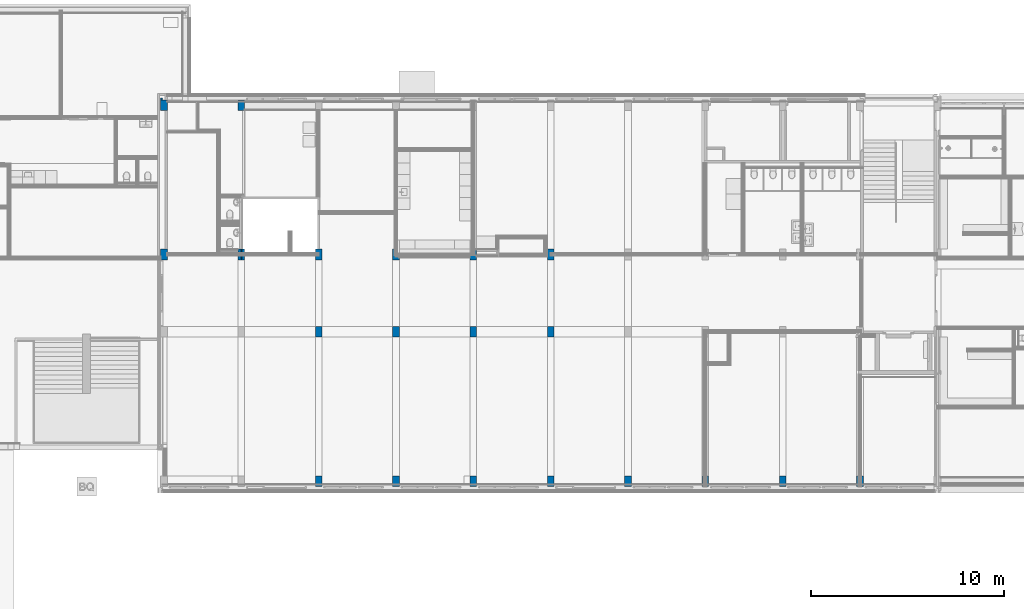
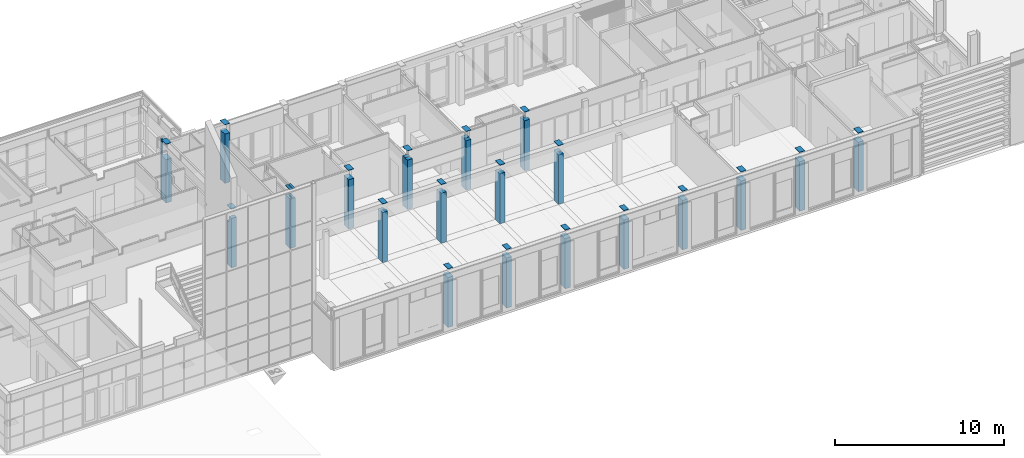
# One storey, part 4 of 109: 21 columns.
"""IFC2X3 building model written with IfcOpenShell, lengths in millimetres."""

from ifc_helpers import new_model, entity, si_unit, converted_unit, derived_unit, money_unit, direction, frame, origin_with_axes, place, context, subcontext, project, spatial, faceted_brep, material, type_object, element, save


model = new_model("IFC2X3")

# Units and contexts
model_context = context("Model", 3, precision=0.01, world=origin_with_axes(), true_north=direction((0.0, 1.0)))
body_context = subcontext(model_context, "Body", "Model", "MODEL_VIEW")
ifc_project = project(units=[si_unit("LENGTHUNIT", "METRE", prefix="MILLI"), si_unit("AREAUNIT", "SQUARE_METRE"), si_unit("VOLUMEUNIT", "CUBIC_METRE"), converted_unit("PLANEANGLEUNIT", "DEGREE", entity("IfcPlaneAngleMeasure", 0.0174532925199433), si_unit("PLANEANGLEUNIT", "RADIAN"), dimensions=[0, 0, 0, 0, 0, 0, 0]), money_unit("EUR"), converted_unit("TIMEUNIT", "Year", entity("IfcTimeMeasure", 31557600.0), si_unit("TIMEUNIT", "SECOND"), dimensions=[0, 0, 1, 0, 0, 0, 0]), si_unit("MASSUNIT", "GRAM", prefix="KILO"), si_unit("THERMODYNAMICTEMPERATUREUNIT", "DEGREE_CELSIUS"), si_unit("LUMINOUSINTENSITYUNIT", "LUMEN"), si_unit("ENERGYUNIT", "JOULE", prefix="MEGA"), derived_unit("THERMALCONDUCTANCEUNIT", [(si_unit("POWERUNIT", "WATT"), 1), (si_unit("LENGTHUNIT", "METRE"), -1), (si_unit("THERMODYNAMICTEMPERATUREUNIT", "KELVIN"), -1)]), derived_unit("SPECIFICHEATCAPACITYUNIT", [(si_unit("ENERGYUNIT", "JOULE"), 1), (si_unit("MASSUNIT", "GRAM", prefix="KILO"), -1), (si_unit("THERMODYNAMICTEMPERATUREUNIT", "KELVIN"), -1)]), derived_unit("MASSDENSITYUNIT", [(si_unit("MASSUNIT", "GRAM", prefix="KILO"), 1), (si_unit("VOLUMEUNIT", "CUBIC_METRE"), -1)])], contexts=[model_context])

# Site, building, storey
site_placement = place(None, origin_with_axes())
site = spatial("IfcSite", under=ifc_project, at=site_placement, Name="<site naam>", CompositionType="ELEMENT")
building_placement = place(site_placement, origin_with_axes())
building = spatial("IfcBuilding", under=site, at=building_placement, Name="<Naam gebouw>", CompositionType="ELEMENT")
storey_placement = place(building_placement, origin_with_axes())
storey = spatial("IfcBuildingStorey", under=building, at=storey_placement, Name="00 Begane grond", CompositionType="ELEMENT", Elevation=0.0)

# Columns
ifc_material = material(Name="betonblok C")
column_type_1 = type_object("IfcColumnType", Name="betonblok C 350 x 550", PredefinedType="COLUMN")
column_1_placement = place(storey_placement, frame((36000.00000000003, 275.0000000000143, 0.0), z_axis=(0.0, 0.0, 1.0), x_axis=(1.0, 0.0, 0.0)))
element("IfcColumn", 1, at=column_1_placement, inside=storey, type_object=column_type_1, material=ifc_material, Name="28_Kolom_betonblok", ObjectType="COLUMN", context=body_context, shape_type="Brep", body=[
    faceted_brep([(-174.9999999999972, 275.0000000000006, 0.0), (-175.0000000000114, 275.0000000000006, 3570.0), (174.9999999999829, 275.0000000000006, 3570.0), (174.9999999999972, 275.0000000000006, 0.0), (-174.9999999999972, -275.0000000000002, 0.0), (-175.0000000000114, -275.0000000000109, 3570.0), (174.9999999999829, -275.0000000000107, 3570.0), (174.9999999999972, -275.0000000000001, 0.0)], [[[0, 1, 2, 3]], [[4, 5, 1, 0]], [[5, 6, 2, 1]], [[3, 2, 6, 7]], [[0, 3, 7, 4]], [[7, 6, 5, 4]]]),
    faceted_brep([(174.9999999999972, -275.0000000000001, 4250.0), (174.9999999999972, -275.0000000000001, 4220.0), (174.9999999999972, 275.0000000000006, 4220.0), (174.9999999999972, 275.0000000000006, 4250.0), (-174.9999999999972, -275.0000000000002, 4250.0), (-174.9999999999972, -275.0000000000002, 4220.0), (-174.9999999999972, 275.0000000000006, 4220.0), (-174.9999999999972, 275.0000000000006, 4250.0)], [[[0, 1, 2, 3]], [[4, 5, 1, 0]], [[5, 6, 2, 1]], [[3, 2, 6, 7]], [[3, 7, 4, 0]], [[7, 6, 5, 4]]]),
])
column_2_placement = place(storey_placement, frame((28000.00000000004, 12000.00000000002, 0.0), z_axis=(0.0, 0.0, 1.0), x_axis=(1.0, 0.0, 0.0)))
element("IfcColumn", 2, at=column_2_placement, inside=storey, type_object=column_type_1, material=ifc_material, Name="28_Kolom_betonblok", ObjectType="COLUMN", context=body_context, shape_type="Brep", body=[
    faceted_brep([(-175.0000000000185, 274.9999999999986, 3585.000000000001), (-175.0000000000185, 0.0, 3585.000000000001), (174.9999999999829, 0.0, 3585.000000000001), (174.9999999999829, 275.0000000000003, 3585.000000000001), (-175.0000000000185, -275.0000000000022, 3570.0), (-175.0000000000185, 0.0, 3570.0), (-175.0000000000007, 274.9999999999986, 0.0), (-175.0000000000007, -275.0000000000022, 0.0), (174.9999999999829, 0.0, 3570.0), (174.9999999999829, -275.0000000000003, 3570.0), (175.0000000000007, -275.0000000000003, 0.0), (175.0000000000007, 275.0000000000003, 0.0)], [[[0, 1, 2, 3]], [[4, 5, 1, 0, 6, 7]], [[5, 8, 2, 1]], [[2, 8, 9, 10, 11, 3]], [[6, 0, 3, 11]], [[4, 9, 8, 5]], [[6, 11, 10, 7]], [[10, 9, 4, 7]]]),
    faceted_brep([(175.0000000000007, -275.0000000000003, 4250.0), (175.0000000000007, -275.0000000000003, 4220.0), (175.0000000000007, 275.0000000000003, 4220.0), (175.0000000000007, 275.0000000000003, 4250.0), (-175.0000000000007, -275.0000000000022, 4250.0), (-175.0000000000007, -275.0000000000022, 4220.0), (-175.0000000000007, 274.9999999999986, 4220.0), (-175.0000000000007, 274.9999999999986, 4250.0)], [[[0, 1, 2, 3]], [[4, 5, 1, 0]], [[5, 6, 2, 1]], [[3, 2, 6, 7]], [[3, 7, 4, 0]], [[7, 6, 5, 4]]]),
])
column_3_placement = place(storey_placement, frame((40000.00000000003, 275.0000000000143, 0.0), z_axis=(0.0, 0.0, 1.0), x_axis=(1.0, 0.0, 0.0)))
element("IfcColumn", 3, at=column_3_placement, inside=storey, type_object=column_type_1, material=ifc_material, Name="28_Kolom_betonblok", ObjectType="COLUMN", context=body_context, shape_type="Brep", body=[
    faceted_brep([(-174.9999999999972, 275.0000000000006, 0.0), (-175.0000000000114, 275.0000000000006, 3570.0), (174.9999999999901, 275.0000000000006, 3570.0), (174.9999999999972, 275.0000000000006, 0.0), (-174.9999999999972, -275.0000000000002, 0.0), (-175.0000000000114, -275.0000000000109, 3570.0), (174.9999999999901, -275.0000000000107, 3570.0), (174.9999999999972, -275.0000000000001, 0.0)], [[[0, 1, 2, 3]], [[4, 5, 1, 0]], [[5, 6, 2, 1]], [[3, 2, 6, 7]], [[0, 3, 7, 4]], [[7, 6, 5, 4]]]),
    faceted_brep([(174.9999999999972, -275.0000000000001, 4250.0), (174.9999999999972, -275.0000000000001, 4220.0), (174.9999999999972, 275.0000000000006, 4220.0), (174.9999999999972, 275.0000000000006, 4250.0), (-174.9999999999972, -275.0000000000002, 4250.0), (-174.9999999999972, -275.0000000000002, 4220.0), (-174.9999999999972, 275.0000000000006, 4220.0), (-174.9999999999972, 275.0000000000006, 4250.0)], [[[0, 1, 2, 3]], [[4, 5, 1, 0]], [[5, 6, 2, 1]], [[3, 2, 6, 7]], [[3, 7, 4, 0]], [[7, 6, 5, 4]]]),
])
column_4_placement = place(storey_placement, frame((28000.00000000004, 8000.000000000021, 0.0), z_axis=(0.0, 0.0, 1.0), x_axis=(1.0, 0.0, 0.0)))
element("IfcColumn", 4, at=column_4_placement, inside=storey, type_object=column_type_1, material=ifc_material, Name="28_Kolom_betonblok", ObjectType="COLUMN", context=body_context, shape_type="Brep", body=[
    faceted_brep([(-175.0000000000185, 0.0, 3570.0), (-175.0000000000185, 0.0, 3620.0), (174.9999999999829, 0.0, 3620.0), (174.9999999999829, 0.0, 3570.0), (-174.9999999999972, -275.0000000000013, 0.0), (-175.0000000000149, -275.0000000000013, 3620.0), (-175.0000000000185, 274.9999999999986, 3570.0), (-175.0000000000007, 274.9999999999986, 0.0), (174.9999999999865, -275.0000000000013, 3620.0), (175.0000000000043, -275.0000000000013, 0.0), (175.0000000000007, 275.0000000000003, 0.0), (174.9999999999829, 275.0000000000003, 3570.0)], [[[0, 1, 2, 3]], [[4, 5, 1, 0, 6, 7]], [[5, 8, 2, 1]], [[3, 2, 8, 9, 10, 11]], [[0, 3, 11, 6]], [[9, 8, 5, 4]], [[7, 6, 11, 10]], [[7, 10, 9, 4]]]),
    faceted_brep([(175.0000000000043, -275.0000000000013, 4250.0), (175.0000000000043, -275.0000000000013, 4220.0), (175.0000000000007, 275.0000000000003, 4220.0), (175.0000000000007, 275.0000000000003, 4250.0), (-174.9999999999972, -275.0000000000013, 4250.0), (-174.9999999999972, -275.0000000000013, 4220.0), (-175.0000000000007, 274.9999999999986, 4220.0), (-175.0000000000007, 274.9999999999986, 4250.0)], [[[0, 1, 2, 3]], [[4, 5, 1, 0]], [[5, 6, 2, 1]], [[3, 2, 6, 7]], [[3, 7, 4, 0]], [[7, 6, 5, 4]]]),
])
column_5_placement = place(storey_placement, frame((28000.00000000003, 275.0000000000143, 0.0), z_axis=(0.0, 0.0, 1.0), x_axis=(1.0, 0.0, 0.0)))
element("IfcColumn", 5, at=column_5_placement, inside=storey, type_object=column_type_1, material=ifc_material, Name="28_Kolom_betonblok", ObjectType="COLUMN", context=body_context, shape_type="Brep", body=[
    faceted_brep([(-175.0000000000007, 275.0000000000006, 0.0), (-175.0000000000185, 275.0000000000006, 3620.0), (174.9999999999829, 275.0000000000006, 3620.0), (175.0000000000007, 275.0000000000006, 0.0), (-175.0000000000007, -275.0000000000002, 0.0), (-175.0000000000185, -275.0000000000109, 3620.0), (174.9999999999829, -275.0000000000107, 3620.0), (175.0000000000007, -275.0000000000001, 0.0)], [[[0, 1, 2, 3]], [[4, 5, 1, 0]], [[5, 6, 2, 1]], [[3, 2, 6, 7]], [[0, 3, 7, 4]], [[7, 6, 5, 4]]]),
    faceted_brep([(175.0000000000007, -275.0000000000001, 4250.0), (175.0000000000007, -275.0000000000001, 4220.0), (175.0000000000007, 275.0000000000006, 4220.0), (175.0000000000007, 275.0000000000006, 4250.0), (-175.0000000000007, -275.0000000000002, 4250.0), (-175.0000000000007, -275.0000000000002, 4220.0), (-175.0000000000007, 275.0000000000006, 4220.0), (-175.0000000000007, 275.0000000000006, 4250.0)], [[[0, 1, 2, 3]], [[4, 5, 1, 0]], [[5, 6, 2, 1]], [[3, 2, 6, 7]], [[3, 7, 4, 0]], [[7, 6, 5, 4]]]),
])
for number, where, z_axis, x_axis, name in (
    (6, (44000.00000000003, 275.0000000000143, 0.0), (0.0, 0.0, 1.0), (1.0, 0.0, 0.0), "28_Kolom_betonblok"),
    (7, (48000.00000000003, 275.0000000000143, 0.0), (0.0, 0.0, 1.0), (1.0, 0.0, 0.0), "28_Kolom_betonblok"),
):
    element("IfcColumn", number, at=place(storey_placement, frame(where, z_axis=z_axis, x_axis=x_axis)), inside=storey, type_object=column_type_1, material=ifc_material, Name=name, ObjectType="COLUMN", context=body_context, shape_type="Brep", body=[
        faceted_brep([(-174.9999999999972, 275.0000000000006, 0.0), (-175.0000000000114, 275.0000000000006, 3570.0), (174.9999999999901, 275.0000000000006, 3570.0), (174.9999999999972, 275.0000000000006, 0.0), (-174.9999999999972, -275.0000000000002, 0.0), (-175.0000000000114, -275.0000000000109, 3570.0), (174.9999999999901, -275.0000000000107, 3570.0), (174.9999999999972, -275.0000000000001, 0.0)], [[[0, 1, 2, 3]], [[4, 5, 1, 0]], [[5, 6, 2, 1]], [[3, 2, 6, 7]], [[0, 3, 7, 4]], [[7, 6, 5, 4]]]),
        faceted_brep([(174.9999999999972, -275.0000000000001, 4250.0), (174.9999999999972, -275.0000000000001, 4220.0), (174.9999999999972, 275.0000000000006, 4220.0), (174.9999999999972, 275.0000000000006, 4250.0), (-174.9999999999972, -275.0000000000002, 4250.0), (-174.9999999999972, -275.0000000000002, 4220.0), (-174.9999999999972, 275.0000000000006, 4220.0), (-174.9999999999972, 275.0000000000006, 4250.0)], [[[0, 1, 2, 3]], [[4, 5, 1, 0]], [[5, 6, 2, 1]], [[3, 2, 6, 7]], [[3, 7, 4, 0]], [[7, 6, 5, 4]]]),
    ])
column_6_placement = place(storey_placement, frame((20000.00000000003, 275.0000000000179, 0.0), z_axis=(0.0, 0.0, 1.0), x_axis=(1.0, 0.0, 0.0)))
element("IfcColumn", 8, at=column_6_placement, inside=storey, type_object=column_type_1, material=ifc_material, Name="28_Kolom_betonblok", ObjectType="COLUMN", context=body_context, shape_type="Brep", body=[
    faceted_brep([(-175.0000000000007, 275.0000000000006, 0.0), (-175.0000000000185, 275.0000000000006, 3620.0), (174.9999999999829, 275.0000000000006, 3620.0), (175.0000000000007, 275.0000000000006, 0.0), (-175.0000000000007, -275.0000000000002, 0.0), (-175.0000000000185, -275.0000000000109, 3620.0), (174.9999999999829, -275.0000000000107, 3620.0), (175.0000000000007, -275.0000000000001, 0.0)], [[[0, 1, 2, 3]], [[4, 5, 1, 0]], [[5, 6, 2, 1]], [[3, 2, 6, 7]], [[0, 3, 7, 4]], [[7, 6, 5, 4]]]),
    faceted_brep([(175.0000000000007, -275.0000000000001, 4250.0), (175.0000000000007, -275.0000000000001, 4220.0), (175.0000000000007, 275.0000000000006, 4220.0), (175.0000000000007, 275.0000000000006, 4250.0), (-175.0000000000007, -275.0000000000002, 4250.0), (-175.0000000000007, -275.0000000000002, 4220.0), (-175.0000000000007, 275.0000000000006, 4220.0), (-175.0000000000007, 275.0000000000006, 4250.0)], [[[0, 1, 2, 3]], [[4, 5, 1, 0]], [[5, 6, 2, 1]], [[3, 2, 6, 7]], [[3, 7, 4, 0]], [[7, 6, 5, 4]]]),
])
column_7_placement = place(storey_placement, frame((16000.00000000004, 19724.99999999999, 0.0), z_axis=(0.0, 0.0, 1.0), x_axis=(1.0, 0.0, 0.0)))
element("IfcColumn", 9, at=column_7_placement, inside=storey, type_object=column_type_1, material=ifc_material, Name="28_Kolom_betonblok", ObjectType="COLUMN", context=body_context, shape_type="Brep", body=[
    faceted_brep([(-175.0000000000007, 274.9999999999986, 0.0), (-175.0000000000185, 274.9999999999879, 3570.0), (174.9999999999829, 274.9999999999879, 3570.0), (175.0000000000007, 274.9999999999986, 0.0), (-175.0000000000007, -274.9999999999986, 0.0), (-175.0000000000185, -274.9999999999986, 3570.0), (174.9999999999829, -274.9999999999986, 3570.0), (175.0000000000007, -274.9999999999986, 0.0)], [[[0, 1, 2, 3]], [[4, 5, 1, 0]], [[5, 6, 2, 1]], [[3, 2, 6, 7]], [[0, 3, 7, 4]], [[7, 6, 5, 4]]]),
    faceted_brep([(175.0000000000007, -274.9999999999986, 4250.0), (175.0000000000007, -274.9999999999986, 4220.0), (175.0000000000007, 274.9999999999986, 4220.0), (175.0000000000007, 274.9999999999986, 4250.0), (-175.0000000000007, -274.9999999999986, 4250.0), (-175.0000000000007, -274.9999999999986, 4220.0), (-175.0000000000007, 274.9999999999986, 4220.0), (-175.0000000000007, 274.9999999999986, 4250.0)], [[[0, 1, 2, 3]], [[4, 5, 1, 0]], [[5, 6, 2, 1]], [[3, 2, 6, 7]], [[3, 7, 4, 0]], [[7, 6, 5, 4]]]),
])
column_8_placement = place(storey_placement, frame((16000.00000000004, 12000.00000000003, 0.0), z_axis=(0.0, 0.0, 1.0), x_axis=(1.0, 0.0, 0.0)))
element("IfcColumn", 10, at=column_8_placement, inside=storey, type_object=column_type_1, material=ifc_material, Name="28_Kolom_betonblok", ObjectType="COLUMN", context=body_context, shape_type="Brep", body=[
    faceted_brep([(174.9999999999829, 275.0000000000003, 3570.0), (24.99999999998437, 275.0000000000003, 3570.0), (24.99999999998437, -224.9999999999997, 3570.0), (-25.00000000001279, -224.9999999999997, 3570.0), (-25.00000000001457, 275.0000000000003, 3570.0), (-175.0000000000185, 275.0000000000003, 3570.0), (-175.0000000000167, -275.0000000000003, 3570.0), (174.9999999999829, -275.0000000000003, 3570.0), (24.99999999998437, 275.0000000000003, 49.99999999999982), (175.0000000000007, 275.0000000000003, 0.0), (-175.0000000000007, 275.0000000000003, 0.0), (-25.00000000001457, 275.0000000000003, 49.99999999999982), (24.99999999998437, -224.9999999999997, 49.99999999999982), (-25.00000000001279, -224.9999999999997, 49.99999999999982), (-174.9999999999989, -275.0000000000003, 0.0), (175.0000000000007, -275.0000000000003, 0.0)], [[[0, 1, 2, 3, 4, 5, 6, 7]], [[8, 1, 0, 9, 10, 5, 4, 11]], [[12, 2, 1, 8]], [[13, 3, 2, 12]], [[4, 3, 13, 11]], [[14, 6, 5, 10]], [[15, 7, 6, 14]], [[0, 7, 15, 9]], [[14, 10, 9, 15]], [[11, 13, 12, 8]]]),
    faceted_brep([(175.0000000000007, -275.0000000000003, 4250.0), (175.0000000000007, -275.0000000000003, 4220.0), (175.0000000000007, 275.0000000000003, 4220.0), (175.0000000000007, 275.0000000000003, 4250.0), (-174.9999999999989, -275.0000000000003, 4250.0), (-174.9999999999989, -275.0000000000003, 4220.0), (24.99999999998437, -224.9999999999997, 4220.0), (24.99999999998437, 275.0000000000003, 4220.0), (-175.0000000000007, 275.0000000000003, 4220.0), (-25.00000000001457, 275.0000000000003, 4220.0), (-25.00000000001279, -224.9999999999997, 4220.0), (24.99999999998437, 275.0000000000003, 4250.0), (24.99999999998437, -224.9999999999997, 4250.0), (-25.00000000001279, -224.9999999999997, 4250.0), (-25.00000000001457, 275.0000000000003, 4250.0), (-175.0000000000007, 275.0000000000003, 4250.0)], [[[0, 1, 2, 3]], [[4, 5, 1, 0]], [[6, 7, 2, 1, 5, 8, 9, 10]], [[3, 2, 7, 11]], [[11, 12, 13, 14, 15, 4, 0, 3]], [[15, 8, 5, 4]], [[11, 7, 6, 12]], [[14, 9, 8, 15]], [[13, 10, 9, 14]], [[12, 6, 10, 13]]]),
])
column_9_placement = place(storey_placement, frame((24000.00000000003, 275.0000000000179, 0.0), z_axis=(0.0, 0.0, 1.0), x_axis=(1.0, 0.0, 0.0)))
element("IfcColumn", 11, at=column_9_placement, inside=storey, type_object=column_type_1, material=ifc_material, Name="28_Kolom_betonblok", ObjectType="COLUMN", context=body_context, shape_type="Brep", body=[
    faceted_brep([(-175.0000000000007, 275.0000000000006, 0.0), (-175.0000000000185, 275.0000000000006, 3620.0), (174.9999999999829, 275.0000000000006, 3620.0), (175.0000000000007, 275.0000000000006, 0.0), (-175.0000000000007, -275.0000000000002, 0.0), (-175.0000000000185, -275.0000000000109, 3620.0), (174.9999999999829, -275.0000000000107, 3620.0), (175.0000000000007, -275.0000000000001, 0.0)], [[[0, 1, 2, 3]], [[4, 5, 1, 0]], [[5, 6, 2, 1]], [[3, 2, 6, 7]], [[0, 3, 7, 4]], [[7, 6, 5, 4]]]),
    faceted_brep([(175.0000000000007, -275.0000000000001, 4250.0), (175.0000000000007, -275.0000000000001, 4220.0), (175.0000000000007, 275.0000000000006, 4220.0), (175.0000000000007, 275.0000000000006, 4250.0), (-175.0000000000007, -275.0000000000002, 4250.0), (-175.0000000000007, -275.0000000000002, 4220.0), (-175.0000000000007, 275.0000000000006, 4220.0), (-175.0000000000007, 275.0000000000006, 4250.0)], [[[0, 1, 2, 3]], [[4, 5, 1, 0]], [[5, 6, 2, 1]], [[3, 2, 6, 7]], [[3, 7, 4, 0]], [[7, 6, 5, 4]]]),
])
column_10_placement = place(storey_placement, frame((24000.00000000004, 8000.000000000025, 0.0), z_axis=(0.0, 0.0, 1.0), x_axis=(1.0, 0.0, 0.0)))
element("IfcColumn", 12, at=column_10_placement, inside=storey, type_object=column_type_1, material=ifc_material, Name="28_Kolom_betonblok", ObjectType="COLUMN", context=body_context, shape_type="Brep", body=[
    faceted_brep([(-175.0000000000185, 0.0, 3570.0), (-175.0000000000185, 0.0, 3620.0), (174.9999999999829, 0.0, 3620.0), (174.9999999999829, 0.0, 3570.0), (-174.9999999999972, -275.0000000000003, 0.0), (-175.0000000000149, -275.0000000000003, 3620.0), (-175.0000000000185, 275.0000000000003, 3570.0), (-175.0000000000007, 275.0000000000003, 0.0), (174.9999999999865, -275.0000000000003, 3620.0), (175.0000000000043, -275.0000000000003, 0.0), (175.0000000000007, 275.0000000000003, 0.0), (174.9999999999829, 275.0000000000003, 3570.0)], [[[0, 1, 2, 3]], [[4, 5, 1, 0, 6, 7]], [[5, 8, 2, 1]], [[3, 2, 8, 9, 10, 11]], [[0, 3, 11, 6]], [[9, 8, 5, 4]], [[7, 6, 11, 10]], [[7, 10, 9, 4]]]),
    faceted_brep([(175.0000000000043, -275.0000000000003, 4250.0), (175.0000000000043, -275.0000000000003, 4220.0), (175.0000000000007, 275.0000000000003, 4220.0), (175.0000000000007, 275.0000000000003, 4250.0), (-174.9999999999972, -275.0000000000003, 4250.0), (-174.9999999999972, -275.0000000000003, 4220.0), (-175.0000000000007, 275.0000000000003, 4220.0), (-175.0000000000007, 275.0000000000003, 4250.0)], [[[0, 1, 2, 3]], [[4, 5, 1, 0]], [[5, 6, 2, 1]], [[3, 2, 6, 7]], [[3, 7, 4, 0]], [[7, 6, 5, 4]]]),
])
column_11_placement = place(storey_placement, frame((24000.00000000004, 12000.00000000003, 0.0), z_axis=(0.0, 0.0, 1.0), x_axis=(1.0, 0.0, 0.0)))
element("IfcColumn", 13, at=column_11_placement, inside=storey, type_object=column_type_1, material=ifc_material, Name="28_Kolom_betonblok", ObjectType="COLUMN", context=body_context, shape_type="Brep", body=[
    faceted_brep([(-175.0000000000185, 275.0000000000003, 3585.000000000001), (-175.0000000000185, 0.0, 3585.000000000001), (174.9999999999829, 0.0, 3585.000000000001), (174.9999999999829, 275.0000000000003, 3585.000000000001), (-175.0000000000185, -275.0000000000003, 3570.0), (-175.0000000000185, 0.0, 3570.0), (-175.0000000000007, 275.0000000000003, 0.0), (-175.0000000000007, -275.0000000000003, 0.0), (174.9999999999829, 0.0, 3570.0), (174.9999999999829, -275.0000000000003, 3570.0), (175.0000000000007, -275.0000000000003, 0.0), (175.0000000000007, 275.0000000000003, 0.0)], [[[0, 1, 2, 3]], [[4, 5, 1, 0, 6, 7]], [[5, 8, 2, 1]], [[2, 8, 9, 10, 11, 3]], [[6, 0, 3, 11]], [[4, 9, 8, 5]], [[6, 11, 10, 7]], [[10, 9, 4, 7]]]),
    faceted_brep([(175.0000000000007, -275.0000000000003, 4250.0), (175.0000000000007, -275.0000000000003, 4220.0), (175.0000000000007, 275.0000000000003, 4220.0), (175.0000000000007, 275.0000000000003, 4250.0), (-175.0000000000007, -275.0000000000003, 4250.0), (-175.0000000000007, -275.0000000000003, 4220.0), (-175.0000000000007, 275.0000000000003, 4220.0), (-175.0000000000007, 275.0000000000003, 4250.0)], [[[0, 1, 2, 3]], [[4, 5, 1, 0]], [[5, 6, 2, 1]], [[3, 2, 6, 7]], [[3, 7, 4, 0]], [[7, 6, 5, 4]]]),
])
column_12_placement = place(storey_placement, frame((12000.00000000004, 19724.99999999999, 0.0), z_axis=(0.0, 0.0, 1.0), x_axis=(1.0, 0.0, 0.0)))
element("IfcColumn", 14, at=column_12_placement, inside=storey, type_object=column_type_1, material=ifc_material, Name="28_Kolom_betonblok", ObjectType="COLUMN", context=body_context, shape_type="Brep", body=[
    faceted_brep([(-175.0000000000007, 274.9999999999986, 0.0), (-175.0000479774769, 275.0000000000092, 3120.0), (174.9999520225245, 275.0000000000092, 3120.0), (175.0000000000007, 274.9999999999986, 0.0), (-175.0000000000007, -274.9999999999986, 0.0), (-175.0000479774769, -274.9999999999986, 3120.0), (174.9999520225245, -274.9999999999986, 3120.0), (175.0000000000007, -274.9999999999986, 0.0)], [[[0, 1, 2, 3]], [[4, 5, 1, 0]], [[5, 6, 2, 1]], [[3, 2, 6, 7]], [[0, 3, 7, 4]], [[7, 6, 5, 4]]]),
    faceted_brep([(175.0000000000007, 274.9999999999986, 4250.0), (175.0000000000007, -274.9999999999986, 4250.0), (175.0000000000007, -274.9999999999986, 4220.0), (175.0000000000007, 274.9999999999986, 4220.0), (-175.0000000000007, 274.9999999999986, 4250.0), (-175.0000000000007, -274.9999999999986, 4250.0), (-175.0000000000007, -274.9999999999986, 4220.0), (-175.0000000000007, 274.9999999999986, 4220.0)], [[[0, 1, 2, 3]], [[1, 0, 4, 5]], [[1, 5, 6, 2]], [[2, 6, 7, 3]], [[4, 0, 3, 7]], [[5, 4, 7, 6]]]),
])
column_13_placement = place(storey_placement, frame((20000.00000000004, 8000.000000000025, 0.0), z_axis=(0.0, 0.0, 1.0), x_axis=(1.0, 0.0, 0.0)))
element("IfcColumn", 15, at=column_13_placement, inside=storey, type_object=column_type_1, material=ifc_material, Name="28_Kolom_betonblok", ObjectType="COLUMN", context=body_context, shape_type="Brep", body=[
    faceted_brep([(-175.0000000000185, 0.0, 3570.0), (-175.0000000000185, 0.0, 3620.0), (174.9999999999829, 0.0, 3620.0), (174.9999999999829, 0.0, 3570.0), (-174.9999999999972, -275.0000000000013, 0.0), (-175.0000000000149, -275.0000000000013, 3620.0), (-175.0000000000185, 274.9999999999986, 3570.0), (-175.0000000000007, 274.9999999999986, 0.0), (174.9999999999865, -275.0000000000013, 3620.0), (175.0000000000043, -275.0000000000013, 0.0), (175.0000000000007, 275.0000000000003, 0.0), (174.9999999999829, 275.0000000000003, 3570.0)], [[[0, 1, 2, 3]], [[4, 5, 1, 0, 6, 7]], [[5, 8, 2, 1]], [[3, 2, 8, 9, 10, 11]], [[0, 3, 11, 6]], [[9, 8, 5, 4]], [[7, 6, 11, 10]], [[7, 10, 9, 4]]]),
    faceted_brep([(175.0000000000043, -275.0000000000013, 4250.0), (175.0000000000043, -275.0000000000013, 4220.0), (175.0000000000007, 275.0000000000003, 4220.0), (175.0000000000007, 275.0000000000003, 4250.0), (-174.9999999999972, -275.0000000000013, 4250.0), (-174.9999999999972, -275.0000000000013, 4220.0), (-175.0000000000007, 274.9999999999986, 4220.0), (-175.0000000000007, 274.9999999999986, 4250.0)], [[[0, 1, 2, 3]], [[4, 5, 1, 0]], [[5, 6, 2, 1]], [[3, 2, 6, 7]], [[3, 7, 4, 0]], [[7, 6, 5, 4]]]),
])
column_14_placement = place(storey_placement, frame((20000.00000000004, 12000.00000000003, 0.0), z_axis=(0.0, 0.0, 1.0), x_axis=(1.0, 0.0, 0.0)))
element("IfcColumn", 16, at=column_14_placement, inside=storey, type_object=column_type_1, material=ifc_material, Name="28_Kolom_betonblok", ObjectType="COLUMN", context=body_context, shape_type="Brep", body=[
    faceted_brep([(174.9999999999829, 275.0000000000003, 3570.0), (-175.0000000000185, 274.9999999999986, 3570.0), (-175.0000000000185, -275.0000000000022, 3570.0), (174.9999999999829, -275.0000000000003, 3570.0), (-175.0000000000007, 274.9999999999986, 0.0), (175.0000000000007, 275.0000000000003, 0.0), (-175.0000000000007, -275.0000000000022, 0.0), (175.0000000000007, -275.0000000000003, 0.0)], [[[0, 1, 2, 3]], [[4, 1, 0, 5]], [[6, 2, 1, 4]], [[7, 3, 2, 6]], [[0, 3, 7, 5]], [[4, 5, 7, 6]]]),
    faceted_brep([(175.0000000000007, -275.0000000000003, 4250.0), (175.0000000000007, -275.0000000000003, 4220.0), (175.0000000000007, 275.0000000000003, 4220.0), (175.0000000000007, 275.0000000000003, 4250.0), (-175.0000000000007, -275.0000000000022, 4250.0), (-175.0000000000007, -275.0000000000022, 4220.0), (-175.0000000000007, 274.9999999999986, 4220.0), (-175.0000000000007, 274.9999999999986, 4250.0)], [[[0, 1, 2, 3]], [[4, 5, 1, 0]], [[5, 6, 2, 1]], [[3, 2, 6, 7]], [[3, 7, 4, 0]], [[7, 6, 5, 4]]]),
])
column_15_placement = place(storey_placement, frame((12000.00000000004, 12000.00000000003, 0.0), z_axis=(0.0, 0.0, 1.0), x_axis=(1.0, 0.0, 0.0)))
element("IfcColumn", 17, at=column_15_placement, inside=storey, type_object=column_type_1, material=ifc_material, Name="28_Kolom_betonblok", ObjectType="COLUMN", context=body_context, shape_type="Brep", body=[
    faceted_brep([(-175.0000479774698, 0.0, 3120.0), (-175.0000479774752, -4.607822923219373e-05, 3570.0), (174.9999520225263, -4.60782274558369e-05, 3570.0), (174.999952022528, 0.0, 3120.0), (-174.9999999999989, -275.0000000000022, 0.0), (-175.0000479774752, -275.0000000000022, 3570.0), (-175.0000479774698, 274.9999999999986, 3120.0), (-175.0000000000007, 274.9999999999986, 0.0), (174.9999520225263, -275.0000000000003, 3570.0), (175.0000000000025, -275.0000000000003, 0.0), (175.0000000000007, 275.0000000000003, 0.0), (174.999952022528, 275.0000000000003, 3120.0)], [[[0, 1, 2, 3]], [[4, 5, 1, 0, 6, 7]], [[5, 8, 2, 1]], [[3, 2, 8, 9, 10, 11]], [[0, 3, 11, 6]], [[9, 8, 5, 4]], [[7, 6, 11, 10]], [[4, 7, 10, 9]]]),
    faceted_brep([(175.0000000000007, 275.0000000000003, 4250.0), (175.0000000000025, -275.0000000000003, 4250.0), (175.0000000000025, -275.0000000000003, 4220.0), (175.0000000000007, 275.0000000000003, 4220.0), (-174.9999999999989, -275.0000000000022, 4250.0), (-175.0000000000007, 274.9999999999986, 4250.0), (-174.9999999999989, -275.0000000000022, 4220.0), (-175.0000000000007, 274.9999999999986, 4220.0)], [[[0, 1, 2, 3]], [[4, 1, 0, 5]], [[1, 4, 6, 2]], [[2, 6, 7, 3]], [[5, 0, 3, 7]], [[4, 5, 7, 6]]]),
])
column_16_placement = place(storey_placement, frame((32000.00000000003, 275.0000000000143, 0.0), z_axis=(0.0, 0.0, 1.0), x_axis=(1.0, 0.0, 0.0)))
element("IfcColumn", 18, at=column_16_placement, inside=storey, type_object=column_type_1, material=ifc_material, Name="28_Kolom_betonblok", ObjectType="COLUMN", context=body_context, shape_type="Brep", body=[
    faceted_brep([(-175.0000000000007, 275.0000000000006, 0.0), (-175.0000000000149, 275.0000000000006, 3570.0), (174.9999999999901, 275.0000000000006, 3570.0), (174.9999999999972, 275.0000000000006, 0.0), (-175.0000000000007, -275.0000000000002, 0.0), (-175.0000000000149, -275.0000000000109, 3570.0), (174.9999999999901, -275.0000000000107, 3570.0), (174.9999999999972, -275.0000000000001, 0.0)], [[[0, 1, 2, 3]], [[4, 5, 1, 0]], [[5, 6, 2, 1]], [[3, 2, 6, 7]], [[0, 3, 7, 4]], [[7, 6, 5, 4]]]),
    faceted_brep([(174.9999999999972, -275.0000000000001, 4250.0), (174.9999999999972, -275.0000000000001, 4220.0), (174.9999999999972, 275.0000000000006, 4220.0), (174.9999999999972, 275.0000000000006, 4250.0), (-175.0000000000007, -275.0000000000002, 4250.0), (-175.0000000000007, -275.0000000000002, 4220.0), (-175.0000000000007, 275.0000000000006, 4220.0), (-175.0000000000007, 275.0000000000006, 4250.0)], [[[0, 1, 2, 3]], [[4, 5, 1, 0]], [[5, 6, 2, 1]], [[3, 2, 6, 7]], [[3, 7, 4, 0]], [[7, 6, 5, 4]]]),
])
column_17_placement = place(storey_placement, frame((32000.00000000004, 8000.000000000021, 0.0), z_axis=(0.0, 0.0, 1.0), x_axis=(1.0, 0.0, 0.0)))
element("IfcColumn", 19, at=column_17_placement, inside=storey, type_object=column_type_1, material=ifc_material, Name="28_Kolom_betonblok", ObjectType="COLUMN", context=body_context, shape_type="Brep", body=[
    faceted_brep([(-175.0000000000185, 275.0000000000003, 3620.0), (-175.0000000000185, 0.0, 3620.0), (174.9999999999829, 0.0, 3620.0), (174.9999999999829, 275.0000000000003, 3620.0), (-175.0000000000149, -275.0000000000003, 3570.0), (-175.0000000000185, 0.0, 3570.0), (-175.0000000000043, 275.0000000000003, 0.0), (-175.0000000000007, -275.0000000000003, 0.0), (174.9999999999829, 0.0, 3570.0), (174.9999999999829, -275.0000000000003, 3570.0), (174.9999999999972, -275.0000000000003, 0.0), (174.9999999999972, 275.0000000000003, 0.0)], [[[0, 1, 2, 3]], [[4, 5, 1, 0, 6, 7]], [[5, 8, 2, 1]], [[2, 8, 9, 10, 11, 3]], [[6, 0, 3, 11]], [[4, 9, 8, 5]], [[6, 11, 10, 7]], [[10, 9, 4, 7]]]),
    faceted_brep([(174.9999999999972, -275.0000000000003, 4250.0), (174.9999999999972, -275.0000000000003, 4220.0), (174.9999999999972, 275.0000000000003, 4220.0), (174.9999999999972, 275.0000000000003, 4250.0), (-175.0000000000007, -275.0000000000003, 4250.0), (-175.0000000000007, -275.0000000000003, 4220.0), (-175.0000000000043, 275.0000000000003, 4220.0), (-175.0000000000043, 275.0000000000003, 4250.0)], [[[0, 1, 2, 3]], [[4, 5, 1, 0]], [[5, 6, 2, 1]], [[3, 2, 6, 7]], [[3, 7, 4, 0]], [[7, 6, 5, 4]]]),
])
column_18_placement = place(storey_placement, frame((32000.00000000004, 12000.00000000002, 0.0), z_axis=(0.0, 0.0, 1.0), x_axis=(1.0, 0.0, 0.0)))
element("IfcColumn", 20, at=column_18_placement, inside=storey, type_object=column_type_1, material=ifc_material, Name="28_Kolom_betonblok", ObjectType="COLUMN", context=body_context, shape_type="Brep", body=[
    faceted_brep([(-175.0000000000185, 0.0, 3570.0), (-175.0000000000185, 0.0, 3620.0), (174.9999999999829, 0.0, 3620.0), (174.9999999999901, 0.0, 3570.0), (-175.0000000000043, -275.0000000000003, 0.0), (-175.0000000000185, -275.0000000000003, 3620.0), (-175.0000000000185, 275.0000000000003, 3570.0), (-175.0000000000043, 275.0000000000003, 0.0), (174.9999999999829, -275.0000000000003, 3620.0), (174.9999999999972, -275.0000000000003, 0.0), (174.9999999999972, 275.0000000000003, 0.0), (174.9999999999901, 275.0000000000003, 3570.0)], [[[0, 1, 2, 3]], [[4, 5, 1, 0, 6, 7]], [[5, 8, 2, 1]], [[3, 2, 8, 9, 10, 11]], [[0, 3, 11, 6]], [[9, 8, 5, 4]], [[7, 6, 11, 10]], [[7, 10, 9, 4]]]),
    faceted_brep([(174.9999999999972, -275.0000000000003, 4250.0), (174.9999999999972, -275.0000000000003, 4220.0), (174.9999999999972, 275.0000000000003, 4220.0), (174.9999999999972, 275.0000000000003, 4250.0), (-175.0000000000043, -275.0000000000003, 4250.0), (-175.0000000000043, -275.0000000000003, 4220.0), (-175.0000000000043, 275.0000000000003, 4220.0), (-175.0000000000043, 275.0000000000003, 4250.0)], [[[0, 1, 2, 3]], [[4, 5, 1, 0]], [[5, 6, 2, 1]], [[3, 2, 6, 7]], [[3, 7, 4, 0]], [[7, 6, 5, 4]]]),
])
column_type_2 = type_object("IfcColumnType", Name="betonblok C 110 x 108", PredefinedType="COLUMN")
column_19_placement = place(storey_placement, frame((11879.9999760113, 20053.83733567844, 0.0), z_axis=(0.0, 0.0, 1.0), x_axis=(-1.0, 0.0, 0.0)))
element("IfcColumn", 21, at=column_19_placement, inside=storey, type_object=column_type_2, material=ifc_material, Name="28_Kolom_betonblok", ObjectType="COLUMN", context=body_context, shape_type="Brep", body=[
    faceted_brep([(-54.99997669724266, -53.8373133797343, 0.0), (54.99997669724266, -53.8373133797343, 0.0), (54.99997669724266, -53.8373133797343, 4100.0), (-54.99997669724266, -53.8373133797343, 4100.0), (-54.99997669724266, 53.8373133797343, 0.0), (54.99997669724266, 53.8373133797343, 0.0), (54.99997669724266, 53.8373133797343, 4100.0), (-54.99997669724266, 53.8373133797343, 4100.0)], [[[0, 1, 2, 3]], [[1, 0, 4, 5]], [[1, 5, 6, 2]], [[2, 6, 7, 3]], [[4, 0, 3, 7]], [[5, 4, 7, 6]]]),
    faceted_brep([(-54.99997669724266, -53.8373133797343, 4250.0), (-54.99997669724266, 53.8373133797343, 4250.0), (-54.99997669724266, 53.8373133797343, 4220.0), (-54.99997669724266, -53.8373133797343, 4220.0), (54.99997669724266, -53.8373133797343, 4250.0), (54.99997669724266, 53.8373133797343, 4250.0), (54.99997669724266, 53.8373133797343, 4220.0), (54.99997669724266, -53.8373133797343, 4220.0)], [[[0, 1, 2, 3]], [[1, 0, 4, 5]], [[1, 5, 6, 2]], [[2, 6, 7, 3]], [[4, 0, 3, 7]], [[5, 4, 7, 6]]]),
])

save(model, "model.ifc")
